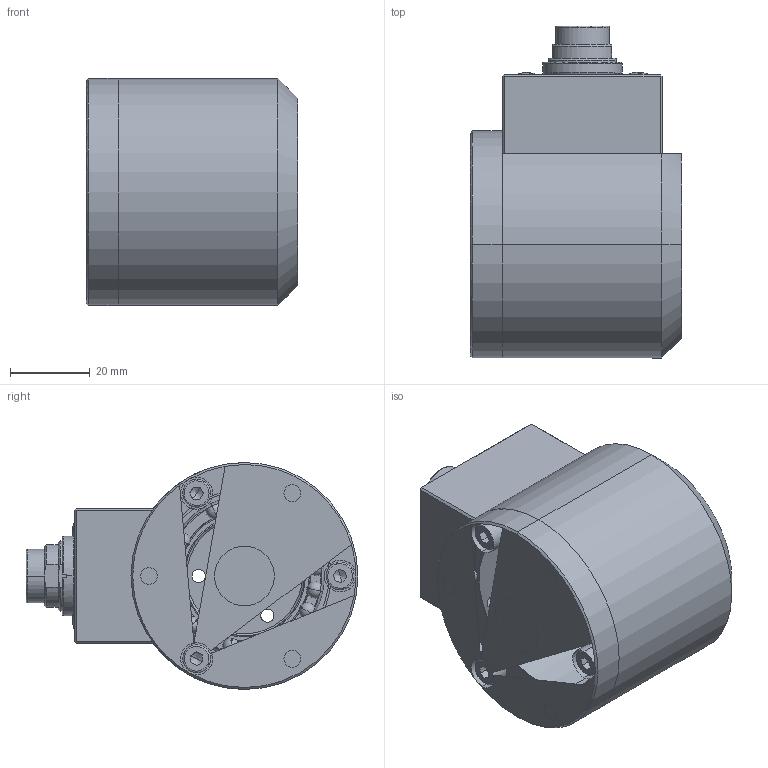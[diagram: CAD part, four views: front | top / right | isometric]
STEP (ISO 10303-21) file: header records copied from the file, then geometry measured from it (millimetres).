
FILE_DESCRIPTION (( 'STEP AP214' ), '1' );
FILE_NAME ('DRT1.STEP', '2020-02-12T08:03:08', ( 'nsi' ), ( '' ), 'SwSTEP 2.0', 'SolidWorks 2020', '' );
FILE_SCHEMA (( 'AUTOMOTIVE_DESIGN' ));
Length unit declared in the file: millimetre
Products named in the file (1): DRT1
Bounding box: 53 x 83.35 x 57 mm (x, y, z)
Surface area: 25888.6 mm2 (no closed solid volume)
Topology: 0 solids, 31 shells, 290 faces, 912 edges, 620 vertices
Faces by surface type: plane 95, cone 57, cylinder 53, torus 47, sphere 38
Entity records: 13317 total; most frequent: CARTESIAN_POINT 2595, DIRECTION 1659, ORIENTED_EDGE 1378, EDGE_CURVE 821, AXIS2_PLACEMENT_3D 698, VERTEX_POINT 569, CIRCLE 407, EDGE_LOOP 343
